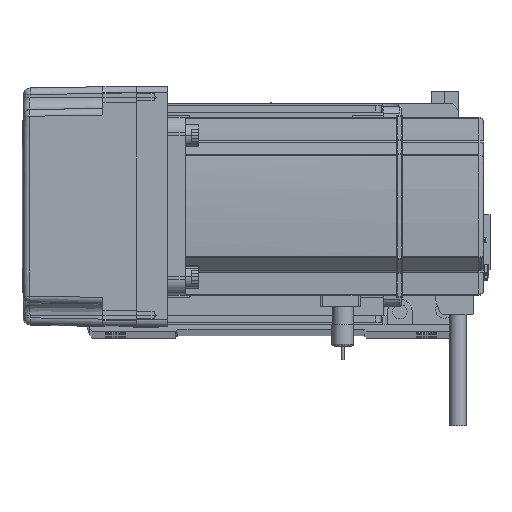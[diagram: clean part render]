
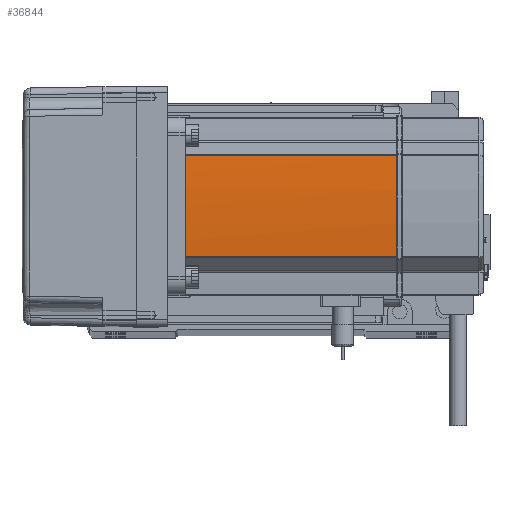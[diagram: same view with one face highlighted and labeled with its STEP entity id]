
A CAD part, top view. The second image highlights one B-rep face of the part: STEP entity #36844.
In plain terms, the highlighted cylindrical face has radius 270 mm (diameter 540 mm), a partial arc.
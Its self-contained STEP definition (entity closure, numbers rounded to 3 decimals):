
#876 = DIRECTION ( 'NONE',  ( 0., 0., 1. ) ) ;
#1880 = LINE ( 'NONE', #37717, #14934 ) ;
#2708 = DIRECTION ( 'NONE',  ( 0., 0., -1. ) ) ;
#5393 = CARTESIAN_POINT ( 'NONE',  ( 40., 0.042, 134. ) ) ;
#5486 = FACE_OUTER_BOUND ( 'NONE', #57228, .T. ) ;
#5944 = CARTESIAN_POINT ( 'NONE',  ( 39.042, -22.724, 58. ) ) ;
#6784 = VECTOR ( 'NONE', #19557, 1000. ) ;
#6848 = EDGE_CURVE ( 'NONE', #44110, #27140, #1880, .T. ) ;
#6876 = EDGE_CURVE ( 'NONE', #44110, #53563, #26570, .T. ) ;
#9692 = CARTESIAN_POINT ( 'NONE',  ( 40., -0.127, 134. ) ) ;
#10108 = B_SPLINE_CURVE_WITH_KNOTS ( 'NONE', 3,
 ( #9692, #19623, #5393, #23666 ),
 .UNSPECIFIED., .F., .F.,
 ( 4, 4 ),
 ( 0., 1. ),
 .UNSPECIFIED. ) ;
#10419 = DIRECTION ( 'NONE',  ( 0., 0., -1. ) ) ;
#11029 = DIRECTION ( 'NONE',  ( 0., 0., -1. ) ) ;
#11555 = ORIENTED_EDGE ( 'NONE', *, *, #45449, .T. ) ;
#12778 = CYLINDRICAL_SURFACE ( 'NONE', #42628, 270. ) ;
#14934 = VECTOR ( 'NONE', #876, 1000. ) ;
#15486 = CARTESIAN_POINT ( 'NONE',  ( -230., 0., 134. ) ) ;
#19353 = DIRECTION ( 'NONE',  ( 0., 0., -1. ) ) ;
#19527 = AXIS2_PLACEMENT_3D ( 'NONE', #44724, #2708, #21382 ) ;
#19557 = DIRECTION ( 'NONE',  ( 0., 0., -1. ) ) ;
#19623 = CARTESIAN_POINT ( 'NONE',  ( 40., -0.042, 134. ) ) ;
#19736 = DIRECTION ( 'NONE',  ( -1., 0., 0. ) ) ;
#19759 = DIRECTION ( 'NONE',  ( -1., 0., 0. ) ) ;
#21158 = VERTEX_POINT ( 'NONE', #59198 ) ;
#21382 = DIRECTION ( 'NONE',  ( -1., 0., 0. ) ) ;
#23666 = CARTESIAN_POINT ( 'NONE',  ( 40., 0.127, 134. ) ) ;
#24194 = CARTESIAN_POINT ( 'NONE',  ( 40., -0.127, 134. ) ) ;
#24433 = CARTESIAN_POINT ( 'NONE',  ( -230., 0., 39. ) ) ;
#26570 = CIRCLE ( 'NONE', #26864, 270. ) ;
#26864 = AXIS2_PLACEMENT_3D ( 'NONE', #24433, #11029, #19759 ) ;
#27023 = CARTESIAN_POINT ( 'NONE',  ( 39.042, -22.724, 39. ) ) ;
#27140 = VERTEX_POINT ( 'NONE', #35476 ) ;
#28134 = CIRCLE ( 'NONE', #19527, 270. ) ;
#28182 = VERTEX_POINT ( 'NONE', #55121 ) ;
#31679 = EDGE_CURVE ( 'NONE', #28182, #53563, #45472, .T. ) ;
#33069 = VERTEX_POINT ( 'NONE', #24194 ) ;
#33077 = ORIENTED_EDGE ( 'NONE', *, *, #6876, .F. ) ;
#33598 = ORIENTED_EDGE ( 'NONE', *, *, #31679, .T. ) ;
#35476 = CARTESIAN_POINT ( 'NONE',  ( 39.042, 22.724, 134. ) ) ;
#36790 = AXIS2_PLACEMENT_3D ( 'NONE', #15486, #10419, #19736 ) ;
#36844 = ADVANCED_FACE ( 'NONE', ( #5486 ), #12778, .T. ) ;
#36847 = ORIENTED_EDGE ( 'NONE', *, *, #47131, .T. ) ;
#37717 = CARTESIAN_POINT ( 'NONE',  ( 39.042, 22.724, 58. ) ) ;
#39834 = ORIENTED_EDGE ( 'NONE', *, *, #6848, .T. ) ;
#42628 = AXIS2_PLACEMENT_3D ( 'NONE', #47522, #19353, #52034 ) ;
#44110 = VERTEX_POINT ( 'NONE', #46109 ) ;
#44724 = CARTESIAN_POINT ( 'NONE',  ( -230., 0., 134. ) ) ;
#45449 = EDGE_CURVE ( 'NONE', #33069, #28182, #28134, .T. ) ;
#45472 = LINE ( 'NONE', #5944, #6784 ) ;
#46109 = CARTESIAN_POINT ( 'NONE',  ( 39.042, 22.724, 39. ) ) ;
#47131 = EDGE_CURVE ( 'NONE', #27140, #21158, #56522, .T. ) ;
#47522 = CARTESIAN_POINT ( 'NONE',  ( -230., 0., 58. ) ) ;
#52034 = DIRECTION ( 'NONE',  ( -1., 0., 0. ) ) ;
#53563 = VERTEX_POINT ( 'NONE', #27023 ) ;
#54185 = EDGE_CURVE ( 'NONE', #33069, #21158, #10108, .T. ) ;
#55121 = CARTESIAN_POINT ( 'NONE',  ( 39.042, -22.724, 134. ) ) ;
#56522 = CIRCLE ( 'NONE', #36790, 270. ) ;
#57228 = EDGE_LOOP ( 'NONE', ( #33598, #33077, #39834, #36847, #57472, #11555 ) ) ;
#57472 = ORIENTED_EDGE ( 'NONE', *, *, #54185, .F. ) ;
#59198 = CARTESIAN_POINT ( 'NONE',  ( 40., 0.127, 134. ) ) ;
